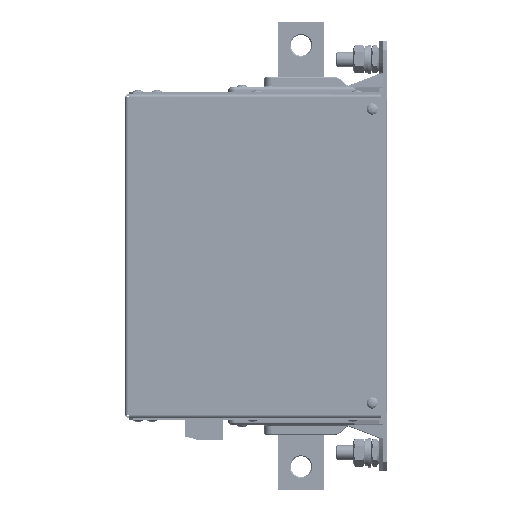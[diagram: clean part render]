
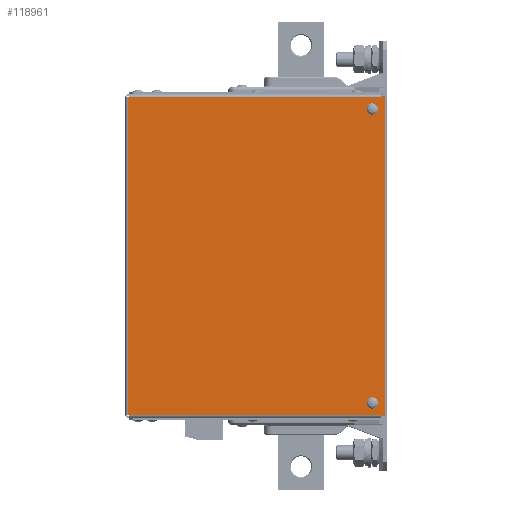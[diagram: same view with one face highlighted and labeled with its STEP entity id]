
A CAD part, left-side view. The second image highlights one B-rep face of the part: STEP entity #118961.
In plain terms, the highlighted planar face has unit normal (-1, 0, 0).
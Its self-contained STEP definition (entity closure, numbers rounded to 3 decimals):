
#6997=LINE('',#181423,#17516);
#7009=LINE('',#181448,#17528);
#7029=LINE('',#181489,#17548);
#7031=LINE('',#181492,#17550);
#7032=LINE('',#181495,#17551);
#7033=LINE('',#181497,#17552);
#7034=LINE('',#181499,#17553);
#7035=LINE('',#181501,#17554);
#7036=LINE('',#181503,#17555);
#7037=LINE('',#181505,#17556);
#7038=LINE('',#181507,#17557);
#7039=LINE('',#181508,#17558);
#17516=VECTOR('',#144249,10.);
#17528=VECTOR('',#144265,10.);
#17548=VECTOR('',#144293,10.);
#17550=VECTOR('',#144297,10.);
#17551=VECTOR('',#144300,10.);
#17552=VECTOR('',#144301,10.);
#17553=VECTOR('',#144302,10.);
#17554=VECTOR('',#144303,10.);
#17555=VECTOR('',#144304,10.);
#17556=VECTOR('',#144305,10.);
#17557=VECTOR('',#144306,10.);
#17558=VECTOR('',#144307,10.);
#28511=PLANE('',#127375);
#31733=FACE_BOUND('',#41970,.T.);
#31734=FACE_BOUND('',#41971,.T.);
#34303=FACE_OUTER_BOUND('',#41969,.T.);
#41969=EDGE_LOOP('',(#86656,#86657,#86658,#86659,#86660,#86661,#86662,#86663,
#86664,#86665,#86666,#86667));
#41970=EDGE_LOOP('',(#86668,#86669));
#41971=EDGE_LOOP('',(#86670,#86671));
#48213=CIRCLE('',#127149,3.);
#48214=CIRCLE('',#127150,3.);
#48259=CIRCLE('',#127234,3.);
#48260=CIRCLE('',#127235,3.);
#53322=VERTEX_POINT('',#180653);
#53323=VERTEX_POINT('',#180657);
#53368=VERTEX_POINT('',#180964);
#53369=VERTEX_POINT('',#180968);
#53477=VERTEX_POINT('',#181417);
#53479=VERTEX_POINT('',#181421);
#53490=VERTEX_POINT('',#181447);
#53506=VERTEX_POINT('',#181486);
#53507=VERTEX_POINT('',#181488);
#53508=VERTEX_POINT('',#181494);
#53509=VERTEX_POINT('',#181496);
#53510=VERTEX_POINT('',#181498);
#53511=VERTEX_POINT('',#181500);
#53512=VERTEX_POINT('',#181502);
#53513=VERTEX_POINT('',#181504);
#53514=VERTEX_POINT('',#181506);
#65472=EDGE_CURVE('',#53323,#53322,#48213,.T.);
#65473=EDGE_CURVE('',#53322,#53323,#48214,.T.);
#65524=EDGE_CURVE('',#53369,#53368,#48259,.T.);
#65525=EDGE_CURVE('',#53368,#53369,#48260,.T.);
#65656=EDGE_CURVE('',#53477,#53479,#6997,.T.);
#65668=EDGE_CURVE('',#53490,#53477,#7009,.T.);
#65688=EDGE_CURVE('',#53507,#53506,#7029,.T.);
#65690=EDGE_CURVE('',#53507,#53479,#7031,.T.);
#65691=EDGE_CURVE('',#53506,#53508,#7032,.T.);
#65692=EDGE_CURVE('',#53508,#53509,#7033,.T.);
#65693=EDGE_CURVE('',#53509,#53510,#7034,.T.);
#65694=EDGE_CURVE('',#53511,#53510,#7035,.T.);
#65695=EDGE_CURVE('',#53511,#53512,#7036,.T.);
#65696=EDGE_CURVE('',#53512,#53513,#7037,.T.);
#65697=EDGE_CURVE('',#53513,#53514,#7038,.T.);
#65698=EDGE_CURVE('',#53514,#53490,#7039,.T.);
#86656=ORIENTED_EDGE('',*,*,#65656,.T.);
#86657=ORIENTED_EDGE('',*,*,#65690,.F.);
#86658=ORIENTED_EDGE('',*,*,#65688,.T.);
#86659=ORIENTED_EDGE('',*,*,#65691,.T.);
#86660=ORIENTED_EDGE('',*,*,#65692,.T.);
#86661=ORIENTED_EDGE('',*,*,#65693,.T.);
#86662=ORIENTED_EDGE('',*,*,#65694,.F.);
#86663=ORIENTED_EDGE('',*,*,#65695,.T.);
#86664=ORIENTED_EDGE('',*,*,#65696,.T.);
#86665=ORIENTED_EDGE('',*,*,#65697,.T.);
#86666=ORIENTED_EDGE('',*,*,#65698,.T.);
#86667=ORIENTED_EDGE('',*,*,#65668,.T.);
#86668=ORIENTED_EDGE('',*,*,#65472,.T.);
#86669=ORIENTED_EDGE('',*,*,#65473,.T.);
#86670=ORIENTED_EDGE('',*,*,#65524,.T.);
#86671=ORIENTED_EDGE('',*,*,#65525,.T.);
#118961=ADVANCED_FACE('',(#34303,#31733,#31734),#28511,.T.);
#127149=AXIS2_PLACEMENT_3D('',#180658,#143751,#143752);
#127150=AXIS2_PLACEMENT_3D('',#180659,#143753,#143754);
#127234=AXIS2_PLACEMENT_3D('',#180969,#143921,#143922);
#127235=AXIS2_PLACEMENT_3D('',#180970,#143923,#143924);
#127375=AXIS2_PLACEMENT_3D('',#181493,#144298,#144299);
#143751=DIRECTION('center_axis',(1.,0.,0.));
#143752=DIRECTION('ref_axis',(0.,0.,1.));
#143753=DIRECTION('center_axis',(1.,0.,0.));
#143754=DIRECTION('ref_axis',(0.,0.,1.));
#143921=DIRECTION('center_axis',(1.,0.,0.));
#143922=DIRECTION('ref_axis',(0.,0.,1.));
#143923=DIRECTION('center_axis',(1.,0.,0.));
#143924=DIRECTION('ref_axis',(0.,0.,1.));
#144249=DIRECTION('',(0.,-1.,0.));
#144265=DIRECTION('',(0.,0.,-1.));
#144293=DIRECTION('',(0.,1.,0.));
#144297=DIRECTION('',(0.,0.,-1.));
#144298=DIRECTION('center_axis',(-1.,0.,0.));
#144299=DIRECTION('ref_axis',(0.,-1.,0.));
#144300=DIRECTION('',(0.,0.,-1.));
#144301=DIRECTION('',(0.,1.,0.));
#144302=DIRECTION('',(0.,0.,1.));
#144303=DIRECTION('',(0.,-1.,0.));
#144304=DIRECTION('',(0.,0.,-1.));
#144305=DIRECTION('',(0.,-1.,0.));
#144306=DIRECTION('',(0.,0.,1.));
#144307=DIRECTION('',(0.,-1.,0.));
#180653=CARTESIAN_POINT('',(-125.,8.,-81.5));
#180657=CARTESIAN_POINT('',(-125.,8.,-75.5));
#180658=CARTESIAN_POINT('Origin',(-125.,8.,-78.5));
#180659=CARTESIAN_POINT('Origin',(-125.,8.,-78.5));
#180964=CARTESIAN_POINT('',(-125.,8.,75.5));
#180968=CARTESIAN_POINT('',(-125.,8.,81.5));
#180969=CARTESIAN_POINT('Origin',(-125.,8.,78.5));
#180970=CARTESIAN_POINT('Origin',(-125.,8.,78.5));
#181417=CARTESIAN_POINT('',(-125.,3.49,-85.5));
#181421=CARTESIAN_POINT('',(-125.,1.,-85.5));
#181423=CARTESIAN_POINT('',(-125.,65.225,-85.5));
#181447=CARTESIAN_POINT('',(-125.,3.49,-84.69));
#181448=CARTESIAN_POINT('',(-125.,3.49,-42.345));
#181486=CARTESIAN_POINT('',(-125.,3.49,85.5));
#181488=CARTESIAN_POINT('',(-125.,1.,85.5));
#181489=CARTESIAN_POINT('',(-125.,65.225,85.5));
#181492=CARTESIAN_POINT('',(-125.,1.,86.5));
#181493=CARTESIAN_POINT('Origin',(-125.,128.205,84.695));
#181494=CARTESIAN_POINT('',(-125.,3.49,84.69));
#181495=CARTESIAN_POINT('',(-125.,3.49,42.345));
#181496=CARTESIAN_POINT('',(-125.,3.5,84.69));
#181497=CARTESIAN_POINT('',(-125.,37.,84.69));
#181498=CARTESIAN_POINT('',(-125.,3.5,84.7));
#181499=CARTESIAN_POINT('',(-125.,3.5,43.25));
#181500=CARTESIAN_POINT('',(-125.,138.2,84.7));
#181501=CARTESIAN_POINT('',(-125.,128.21,84.7));
#181502=CARTESIAN_POINT('',(-125.,138.2,-84.7));
#181503=CARTESIAN_POINT('',(-125.,138.2,0.));
#181504=CARTESIAN_POINT('',(-125.,3.5,-84.7));
#181505=CARTESIAN_POINT('',(-125.,99.35,-84.7));
#181506=CARTESIAN_POINT('',(-125.,3.5,-84.69));
#181507=CARTESIAN_POINT('',(-125.,3.5,-43.25));
#181508=CARTESIAN_POINT('',(-125.,37.,-84.69));
